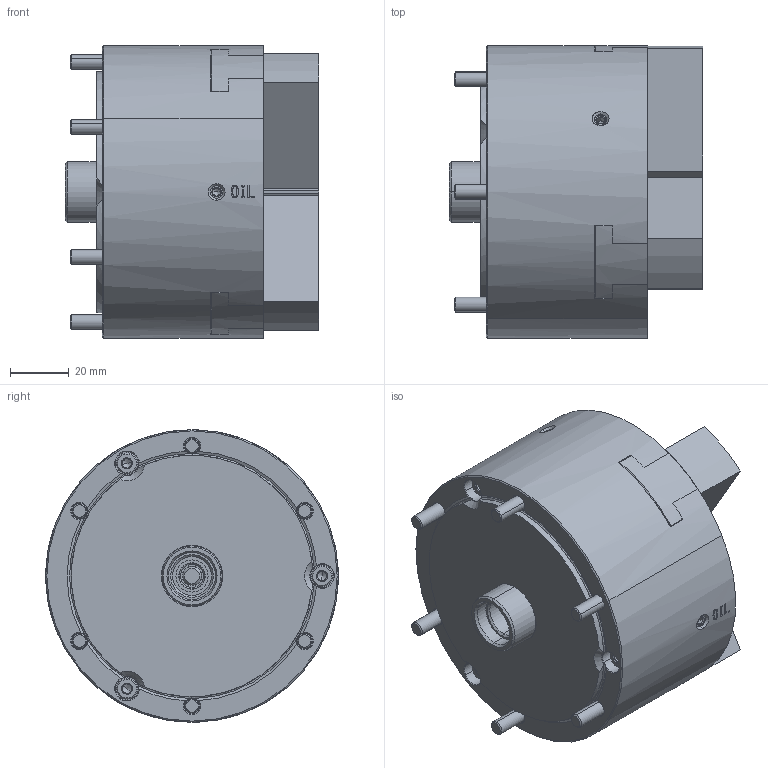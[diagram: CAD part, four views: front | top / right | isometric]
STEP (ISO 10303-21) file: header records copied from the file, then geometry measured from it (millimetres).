
FILE_DESCRIPTION (( 'STEP AP214' ), '1' );
FILE_NAME ('DEV-KPC43C100-OUTSIDE_VIEW_UC.STEP', '2023-12-20T04:12:54', ( '' ), ( '' ), 'SwSTEP 2.0', 'SolidWorks 2022', '' );
FILE_SCHEMA (( 'AUTOMOTIVE_DESIGN' ));
Length unit declared in the file: millimetre
Products named in the file (7): Copy of 61P306265^DEV-KPC43C100-クミタテ; DEV-KPC43C100-OUTSIDE_VIEW_UC; Copy of 61P418231^DEV-KPC43C100-クミタテ; Copy of 0030105016^DEV-KPC43C100-クミタテ; Copy of 0030105060^DEV-KPC43C100-クミタテ; Copy of 0284210012^DEV-KPC43C100-クミタテ; Part1^DEV-KPC43C100-クミタテ
Assembly tree (26 placements, depth 2):
  DEV-KPC43C100-OUTSIDE_VIEW_UC
    Copy of 61P306265^DEV-KPC43C100-クミタテ  x3
    Copy of 61P418231^DEV-KPC43C100-クミタテ
    Copy of 0030105016^DEV-KPC43C100-クミタテ  x6
    Copy of 0284210012^DEV-KPC43C100-クミタテ  x9
    Copy of 0030105060^DEV-KPC43C100-クミタテ  x6
    Part1^DEV-KPC43C100-クミタテ
Bounding box: 86.8 x 100 x 100 mm (x, y, z)
Volume: 482993.5 mm3; surface area: 78398.9 mm2
Topology: 28 solids, 31 shells, 1775 faces, 4409 edges, 2773 vertices
Faces by surface type: plane 772, cone 443, cylinder 348, bspline 180, torus 32
Entity records: 50039 total; most frequent: CARTESIAN_POINT 16467, ORIENTED_EDGE 7138, DIRECTION 6287, EDGE_CURVE 3569, VERTEX_POINT 2285, AXIS2_PLACEMENT_3D 2115, LINE 2057, VECTOR 2057
